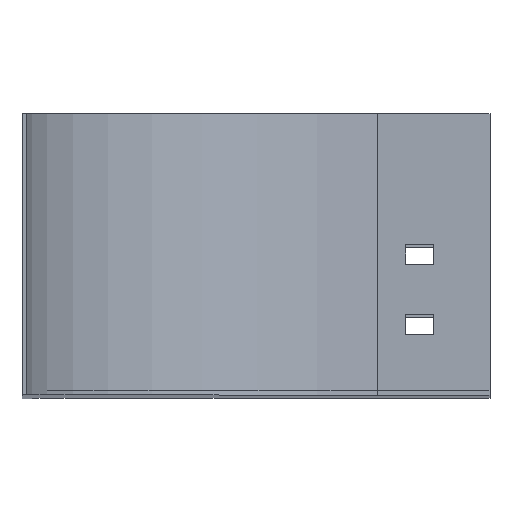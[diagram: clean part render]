
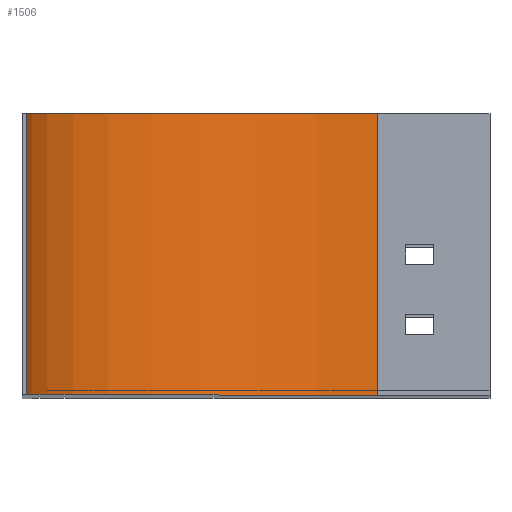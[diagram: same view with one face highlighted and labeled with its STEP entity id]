
A CAD part, top view. The second image highlights one B-rep face of the part: STEP entity #1506.
In plain terms, the highlighted cylindrical face has radius 125 mm (diameter 250 mm), a partial arc.
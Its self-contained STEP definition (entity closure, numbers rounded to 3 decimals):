
#14 = VERTEX_POINT ( 'NONE', #116 ) ;
#67 = LINE ( 'NONE', #1632, #1247 ) ;
#84 = CARTESIAN_POINT ( 'NONE',  ( 0., 100., 0. ) ) ;
#116 = CARTESIAN_POINT ( 'NONE',  ( 0., 100., -125. ) ) ;
#124 = DIRECTION ( 'NONE',  ( 0., 0., -1. ) ) ;
#218 = FACE_OUTER_BOUND ( 'NONE', #1105, .T. ) ;
#243 = CARTESIAN_POINT ( 'NONE',  ( 0., 100., 0. ) ) ;
#375 = EDGE_CURVE ( 'NONE', #14, #1465, #573, .T. ) ;
#392 = ORIENTED_EDGE ( 'NONE', *, *, #375, .F. ) ;
#416 = EDGE_CURVE ( 'NONE', #1504, #1551, #67, .T. ) ;
#487 = AXIS2_PLACEMENT_3D ( 'NONE', #834, #1334, #820 ) ;
#537 = EDGE_CURVE ( 'NONE', #1504, #14, #1233, .T. ) ;
#544 = VECTOR ( 'NONE', #1474, 1000. ) ;
#573 = LINE ( 'NONE', #1456, #544 ) ;
#614 = DIRECTION ( 'NONE',  ( 0., -1., 0. ) ) ;
#621 = AXIS2_PLACEMENT_3D ( 'NONE', #84, #614, #1131 ) ;
#718 = ORIENTED_EDGE ( 'NONE', *, *, #537, .F. ) ;
#745 = CYLINDRICAL_SURFACE ( 'NONE', #621, 125. ) ;
#779 = DIRECTION ( 'NONE',  ( 0., -1., 0. ) ) ;
#820 = DIRECTION ( 'NONE',  ( 0., 0., -1. ) ) ;
#834 = CARTESIAN_POINT ( 'NONE',  ( 0., 0., 0. ) ) ;
#872 = AXIS2_PLACEMENT_3D ( 'NONE', #243, #779, #124 ) ;
#988 = DIRECTION ( 'NONE',  ( 0., -1., 0. ) ) ;
#1000 = EDGE_CURVE ( 'NONE', #1551, #1465, #1097, .T. ) ;
#1097 = CIRCLE ( 'NONE', #487, 125. ) ;
#1105 = EDGE_LOOP ( 'NONE', ( #1669, #392, #718, #1221 ) ) ;
#1131 = DIRECTION ( 'NONE',  ( 0., 0., -1. ) ) ;
#1221 = ORIENTED_EDGE ( 'NONE', *, *, #416, .T. ) ;
#1233 = CIRCLE ( 'NONE', #872, 125. ) ;
#1247 = VECTOR ( 'NONE', #988, 1000. ) ;
#1276 = CARTESIAN_POINT ( 'NONE',  ( 0., 0., -125. ) ) ;
#1334 = DIRECTION ( 'NONE',  ( 0., -1., 0. ) ) ;
#1382 = CARTESIAN_POINT ( 'NONE',  ( -125., 100., 0. ) ) ;
#1420 = CARTESIAN_POINT ( 'NONE',  ( -125., 0., 0. ) ) ;
#1456 = CARTESIAN_POINT ( 'NONE',  ( 0., 100., -125. ) ) ;
#1465 = VERTEX_POINT ( 'NONE', #1276 ) ;
#1474 = DIRECTION ( 'NONE',  ( 0., -1., 0. ) ) ;
#1504 = VERTEX_POINT ( 'NONE', #1382 ) ;
#1506 = ADVANCED_FACE ( 'NONE', ( #218 ), #745, .F. ) ;
#1551 = VERTEX_POINT ( 'NONE', #1420 ) ;
#1632 = CARTESIAN_POINT ( 'NONE',  ( -125., 100., 0. ) ) ;
#1669 = ORIENTED_EDGE ( 'NONE', *, *, #1000, .T. ) ;
